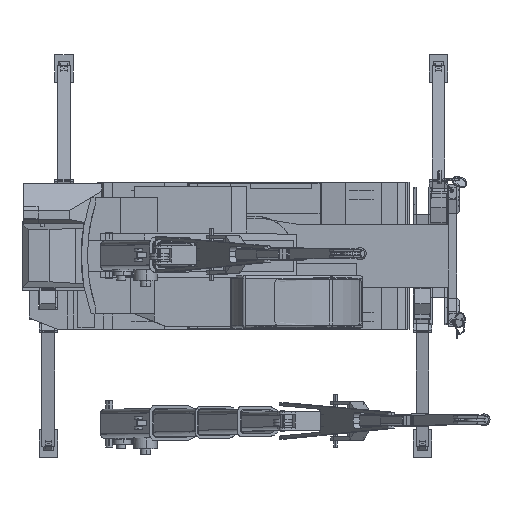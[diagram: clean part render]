
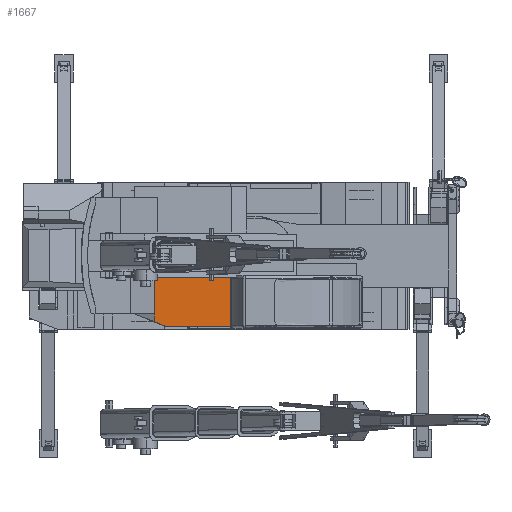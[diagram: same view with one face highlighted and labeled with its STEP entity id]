
A CAD part, top view. The second image highlights one B-rep face of the part: STEP entity #1667.
In plain terms, the highlighted planar face has unit normal (0, 0, 1).
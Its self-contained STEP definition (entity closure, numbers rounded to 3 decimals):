
#382=CARTESIAN_POINT('Vertex',(-1796.817,-1176.858,812.4)) ;
#385=CARTESIAN_POINT('Line Origine',(-1796.817,-1105.929,812.4)) ;
#389=CARTESIAN_POINT('Vertex',(-1796.817,-1035.,812.4)) ;
#501=CARTESIAN_POINT('Vertex',(-1796.817,-388.,812.4)) ;
#504=CARTESIAN_POINT('Line Origine',(-1113.509,-388.,812.4)) ;
#508=CARTESIAN_POINT('Vertex',(-430.2,-388.,812.4)) ;
#1552=CARTESIAN_POINT('Line Origine',(-1796.817,-711.5,812.4)) ;
#1569=CARTESIAN_POINT('Line Origine',(-430.2,-826.5,812.4)) ;
#1573=CARTESIAN_POINT('Vertex',(-430.2,-1265.,812.4)) ;
#1642=CARTESIAN_POINT('Axis2P3D Location',(-1796.817,0.,812.4)) ;
#1647=CARTESIAN_POINT('Line Origine',(-1688.809,-1220.929,812.4)) ;
#1651=CARTESIAN_POINT('Vertex',(-1580.8,-1265.,812.4)) ;
#1654=CARTESIAN_POINT('Line Origine',(-1005.5,-1265.,812.4)) ;
#386=DIRECTION('Vector Direction',(0.,-1.,0.)) ;
#505=DIRECTION('Vector Direction',(1.,0.,0.)) ;
#1553=DIRECTION('Vector Direction',(0.,-1.,0.)) ;
#1570=DIRECTION('Vector Direction',(0.,-1.,0.)) ;
#1643=DIRECTION('Axis2P3D Direction',(0.,0.,-1.)) ;
#1644=DIRECTION('Axis2P3D XDirection',(1.,0.,0.)) ;
#1648=DIRECTION('Vector Direction',(-0.926,0.378,0.)) ;
#1655=DIRECTION('Vector Direction',(1.,0.,0.)) ;
#1645=AXIS2_PLACEMENT_3D('Plane Axis2P3D',#1642,#1643,#1644) ;
#1660=ORIENTED_EDGE('',*,*,#1653,.F.) ;
#1661=ORIENTED_EDGE('',*,*,#1658,.T.) ;
#1662=ORIENTED_EDGE('',*,*,#1575,.F.) ;
#1663=ORIENTED_EDGE('',*,*,#510,.F.) ;
#1664=ORIENTED_EDGE('',*,*,#1556,.T.) ;
#1665=ORIENTED_EDGE('',*,*,#391,.T.) ;
#387=VECTOR('Line Direction',#386,1.) ;
#506=VECTOR('Line Direction',#505,1.) ;
#1554=VECTOR('Line Direction',#1553,1.) ;
#1571=VECTOR('Line Direction',#1570,1.) ;
#1649=VECTOR('Line Direction',#1648,1.) ;
#1656=VECTOR('Line Direction',#1655,1.) ;
#1667=ADVANCED_FACE('\X2\FF8AFF9FFF70FF82\X0\ \X2\FF8EFF9EFF83FF9EFF68FF70\X0\',(#1666),#1646,.F.) ;
#391=EDGE_CURVE('',#390,#383,#388,.T.) ;
#510=EDGE_CURVE('',#502,#509,#507,.T.) ;
#1556=EDGE_CURVE('',#502,#390,#1555,.T.) ;
#1575=EDGE_CURVE('',#509,#1574,#1572,.T.) ;
#1653=EDGE_CURVE('',#1652,#383,#1650,.T.) ;
#1658=EDGE_CURVE('',#1652,#1574,#1657,.T.) ;
#1659=EDGE_LOOP('',(#1660,#1661,#1662,#1663,#1664,#1665)) ;
#1666=FACE_OUTER_BOUND('',#1659,.T.) ;
#388=LINE('Line',#385,#387) ;
#507=LINE('Line',#504,#506) ;
#1555=LINE('Line',#1552,#1554) ;
#1572=LINE('Line',#1569,#1571) ;
#1650=LINE('Line',#1647,#1649) ;
#1657=LINE('Line',#1654,#1656) ;
#1646=PLANE('',#1645) ;
#383=VERTEX_POINT('',#382) ;
#390=VERTEX_POINT('',#389) ;
#502=VERTEX_POINT('',#501) ;
#509=VERTEX_POINT('',#508) ;
#1574=VERTEX_POINT('',#1573) ;
#1652=VERTEX_POINT('',#1651) ;
